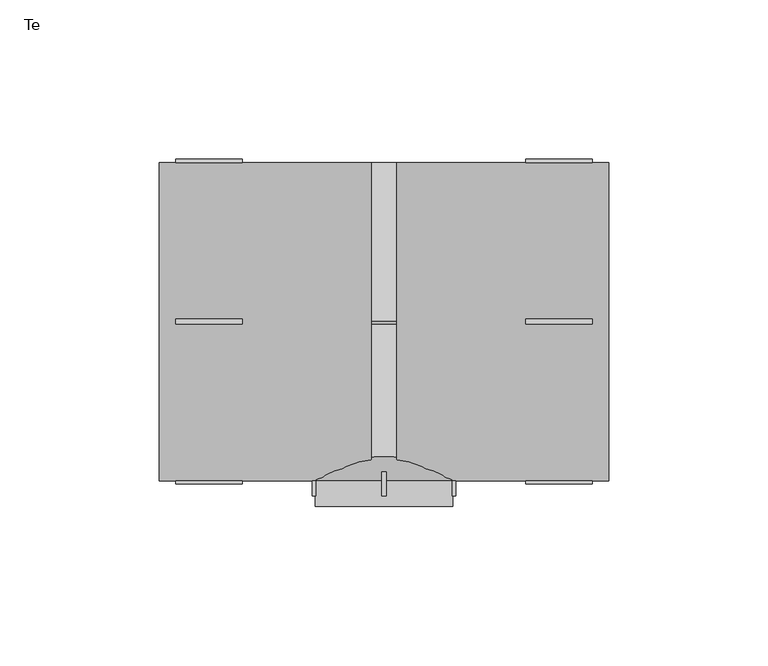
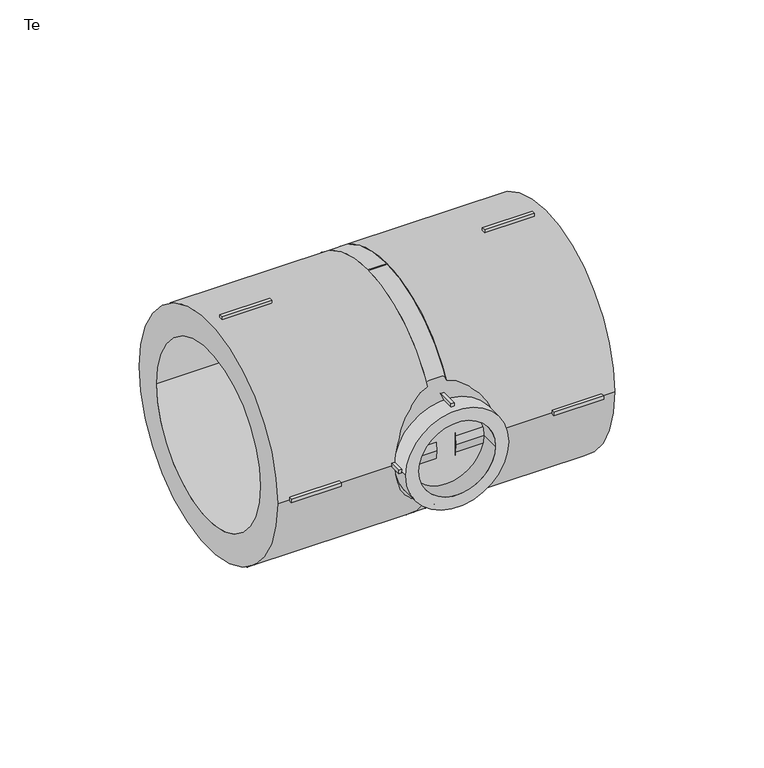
"""IFC4 building model written with IfcOpenShell, lengths in millimetres: pipe fitting geometry, EGB_VASEN_ PPR_Te WXR300_Te reducida WXR310 : Te."""

from ifc_helpers import new_model, si_unit, point, frame, origin, origin_2d, place, context, project, spatial, polyline, circle_curve, trimmed, segment, composite_curve, outline, extrude, source, transform, mapped, element, save
from ifc_brep_helpers import plane_surface, revolved_surface, advanced_brep


def te_c18abe32(model_context):
    return source(origin(), model_context, "Body", "SolidModel", [
        extrude(outline(polyline([(-0.75, -41.5), (0.75, -41.5), (0.75, -54.7), (-0.75, -54.7), (-0.75, -41.5)])), frame((0.0, 0.0, 20.5), z_axis=(0.0, 0.0, 1.0), x_axis=(1.0, 0.0, 0.0)), (0.0, 0.0, 1.0), 2.0),
        extrude(outline(polyline([(-0.75, -41.5), (0.75, -41.5), (0.75, -54.7), (-0.75, -54.7), (-0.75, -41.5)])), frame((0.0, 0.0, -22.5), z_axis=(0.0, 0.0, 1.0), x_axis=(1.0, 0.0, 0.0)), (0.0, 0.0, 1.0), 2.0),
        extrude(outline(polyline([(20.5, -41.5), (22.5, -41.5), (22.5, -54.7), (20.5, -54.7), (20.5, -41.5)])), frame((0.0, 0.0, -0.75), z_axis=(0.0, 0.0, 1.0), x_axis=(1.0, 0.0, 0.0)), (0.0, 0.0, 1.0), 1.5),
        extrude(outline(polyline([(-22.5, -41.5), (-20.5, -41.5), (-20.5, -54.7), (-22.5, -54.7), (-22.5, -41.5)])), frame((0.0, 0.0, -0.75), z_axis=(0.0, 0.0, 1.0), x_axis=(1.0, 0.0, 0.0)), (0.0, 0.0, 1.0), 1.5),
        extrude(outline(polyline([(44.5, -0.75), (44.5, 0.75), (65.3, 0.75), (65.3, -0.75), (44.5, -0.75)])), frame((0.0, 0.0, 49.0), z_axis=(0.0, 0.0, 1.0), x_axis=(1.0, 0.0, 0.0)), (0.0, 0.0, 1.0), 2.0),
        extrude(outline(polyline([(44.5, -0.75), (44.5, 0.75), (65.3, 0.75), (65.3, -0.75), (44.5, -0.75)])), frame((0.0, 0.0, -51.0), z_axis=(0.0, 0.0, 1.0), x_axis=(1.0, 0.0, 0.0)), (0.0, 0.0, 1.0), 2.0),
        extrude(outline(polyline([(44.5, 49.0), (44.5, 51.0), (65.3, 51.0), (65.3, 49.0), (44.5, 49.0)])), frame((0.0, 0.0, -0.75), z_axis=(0.0, 0.0, 1.0), x_axis=(1.0, 0.0, 0.0)), (0.0, 0.0, 1.0), 1.5),
        extrude(outline(polyline([(44.5, -51.0), (44.5, -49.0), (65.3, -49.0), (65.3, -51.0), (44.5, -51.0)])), frame((0.0, 0.0, -0.75), z_axis=(0.0, 0.0, 1.0), x_axis=(1.0, 0.0, 0.0)), (0.0, 0.0, 1.0), 1.5),
        extrude(outline(polyline([(-44.5, 0.75), (-44.5, -0.75), (-65.3, -0.75), (-65.3, 0.75), (-44.5, 0.75)])), frame((0.0, 0.0, 49.0), z_axis=(0.0, 0.0, 1.0), x_axis=(1.0, 0.0, 0.0)), (0.0, 0.0, 1.0), 2.0),
        extrude(outline(polyline([(-44.5, 0.75), (-44.5, -0.75), (-65.3, -0.75), (-65.3, 0.75), (-44.5, 0.75)])), frame((0.0, 0.0, -51.0), z_axis=(0.0, 0.0, 1.0), x_axis=(1.0, 0.0, 0.0)), (0.0, 0.0, 1.0), 2.0),
        extrude(outline(polyline([(-44.5, 51.0), (-44.5, 49.0), (-65.3, 49.0), (-65.3, 51.0), (-44.5, 51.0)])), frame((0.0, 0.0, -0.75), z_axis=(0.0, 0.0, 1.0), x_axis=(1.0, 0.0, 0.0)), (0.0, 0.0, 1.0), 1.5),
        extrude(outline(polyline([(-44.5, -49.0), (-44.5, -51.0), (-65.3, -51.0), (-65.3, -49.0), (-44.5, -49.0)])), frame((0.0, 0.0, -0.75), z_axis=(0.0, 0.0, 1.0), x_axis=(1.0, 0.0, 0.0)), (0.0, 0.0, 1.0), 1.5),
        extrude(outline(composite_curve([segment(trimmed(circle_curve(origin_2d(), 21.5), [point((0.0, 21.5))], [point((0.0, -21.5))], False, "CARTESIAN"), True, "CONTINUOUS"), segment(trimmed(circle_curve(origin_2d(), 21.5), [point((0.0, -21.5))], [point((0.0, 21.5))], False, "CARTESIAN"), True, "CONTINUOUS")], self_intersect=False), holes=[composite_curve([segment(trimmed(circle_curve(origin_2d(), 16.0), [point((0.0, 16.0))], [point((0.0, -16.0))], True, "CARTESIAN"), True, "CONTINUOUS"), segment(trimmed(circle_curve(origin_2d(), 16.0), [point((0.0, -16.0))], [point((0.0, 16.0))], True, "CARTESIAN"), True, "CONTINUOUS")], self_intersect=False)]), frame((0.0, -58.0, 0.0), z_axis=(0.0, 1.0, 0.0), x_axis=(0.0, 0.0, 1.0)), (0.0, 0.0, 1.0), 8.0),
        extrude(outline(composite_curve([segment(trimmed(circle_curve(origin_2d(), 50.0), [point((-50.0, 0.0))], [point((50.0, 0.0))], False, "CARTESIAN"), True, "CONTINUOUS"), segment(trimmed(circle_curve(origin_2d(), 50.0), [point((50.0, 0.0))], [point((-50.0, 0.0))], False, "CARTESIAN"), True, "CONTINUOUS")], self_intersect=False), holes=[composite_curve([segment(trimmed(circle_curve(origin_2d(), 37.5), [point((-37.5, 0.0))], [point((37.5, 0.0))], True, "CARTESIAN"), True, "CONTINUOUS"), segment(trimmed(circle_curve(origin_2d(), 37.5), [point((37.5, 0.0))], [point((-37.5, 0.0))], True, "CARTESIAN"), True, "CONTINUOUS")], self_intersect=False)]), frame((4.0, 0.0, 0.0), z_axis=(1.0, 0.0, 0.0), x_axis=(0.0, 1.0, 0.0)), (0.0, 0.0, 1.0), 66.5),
        extrude(outline(composite_curve([segment(trimmed(circle_curve(origin_2d(), 50.0), [point((-50.0, 0.0))], [point((50.0, 0.0))], False, "CARTESIAN"), True, "CONTINUOUS"), segment(trimmed(circle_curve(origin_2d(), 50.0), [point((50.0, 0.0))], [point((-50.0, 0.0))], False, "CARTESIAN"), True, "CONTINUOUS")], self_intersect=False), holes=[composite_curve([segment(trimmed(circle_curve(origin_2d(), 37.5), [point((-37.5, 0.0))], [point((37.5, 0.0))], True, "CARTESIAN"), True, "CONTINUOUS"), segment(trimmed(circle_curve(origin_2d(), 37.5), [point((37.5, 0.0))], [point((-37.5, 0.0))], True, "CARTESIAN"), True, "CONTINUOUS")], self_intersect=False)]), frame((-70.5, 0.0, 0.0), z_axis=(1.0, 0.0, 0.0), x_axis=(0.0, 1.0, 0.0)), (0.0, 0.0, 1.0), 66.5),
        advanced_brep(
        [(50.0, 0.0, 0.0), (-50.0, 0.0, 0.0), (21.5, -50.0, 0.0), (-21.5, -50.0, 0.0)],
        [
            (0, 1, circle_curve(frame((0.0, 0.0, 0.0), z_axis=(0.0, 1.0, 0.0), x_axis=(1.0, 0.0, 0.0)), 50.0)),
            (1, 0, circle_curve(frame((0.0, 0.0, 0.0), z_axis=(0.0, 1.0, 0.0), x_axis=(-1.0, 0.0, 0.0)), 50.0)),
            (2, 3, circle_curve(frame((0.0, -50.0, 0.0), z_axis=(0.0, -1.0, 0.0), x_axis=(-1.0, 0.0, 0.0)), 21.5)),
            (3, 2, circle_curve(frame((0.0, -50.0, 0.0), z_axis=(0.0, -1.0, 0.0), x_axis=(1.0, 0.0, 0.0)), 21.5)),
            (3, 1),
            (0, 2),
        ],
        [
            plane_surface(frame((0.0, 0.0, 0.0), z_axis=(0.0, 1.0, 0.0), x_axis=(0.0, 0.0, -1.0))),
            plane_surface(frame((0.0, -50.0, 0.0), z_axis=(0.0, -1.0, 0.0), x_axis=(0.0, 0.0, -1.0))),
            revolved_surface(polyline([(-21.49999998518, -50.0, 0.0), (-50.0, 0.0, 0.0)]), (0.0, -87.7192982, 0.0), (0.0, 1.0, 0.0)),
            revolved_surface(polyline([(21.49999998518, -50.0, 0.0), (50.0, 0.0, 0.0)]), (0.0, -87.7192982, 0.0), (0.0, 1.0, 0.0)),
        ],
        [
            (0, [[1, 2]]),
            (1, [[3, 4]]),
            (2, [[-4, 5, -1, 6]]),
            (3, [[-3, -6, -2, -5]]),
        ],
    ),
        extrude(outline(composite_curve([segment(trimmed(circle_curve(origin_2d(), 50.0), [point((-50.0, 0.0))], [point((50.0, 0.0))], False, "CARTESIAN"), True, "CONTINUOUS"), segment(trimmed(circle_curve(origin_2d(), 50.0), [point((50.0, 0.0))], [point((-50.0, 0.0))], False, "CARTESIAN"), True, "CONTINUOUS")], self_intersect=False)), frame((-4.0, 0.0, 0.0), z_axis=(1.0, 0.0, 0.0), x_axis=(0.0, 1.0, 0.0)), (0.0, 0.0, 1.0), 8.0),
    ])


if __name__ == "__main__":
    model = new_model("IFC4")
    model_context = context("Model", 3, world=origin())
    ifc_project = project(units=[si_unit("LENGTHUNIT", "METRE", prefix="MILLI")], contexts=[model_context])
    site = spatial("IfcSite", under=ifc_project)
    building = spatial("IfcBuilding", under=site)
    placement = place(None, origin())
    te_shape = te_c18abe32(model_context)
    element("IfcPipeFitting", 1, ObjectType="EGB_VASEN_ PPR_Te WXR300_Te reducida WXR310 : Te", at=placement, inside=building, context=model_context, shape_type="MappedRepresentation", body=[
        mapped(te_shape, transform((0.0, 0.0, 0.0), x_axis=(1.0, 0.0, 0.0), y_axis=(0.0, 1.0, 0.0), z_axis=(0.0, 0.0, 1.0))),
    ])
    save(model, "model.ifc")
